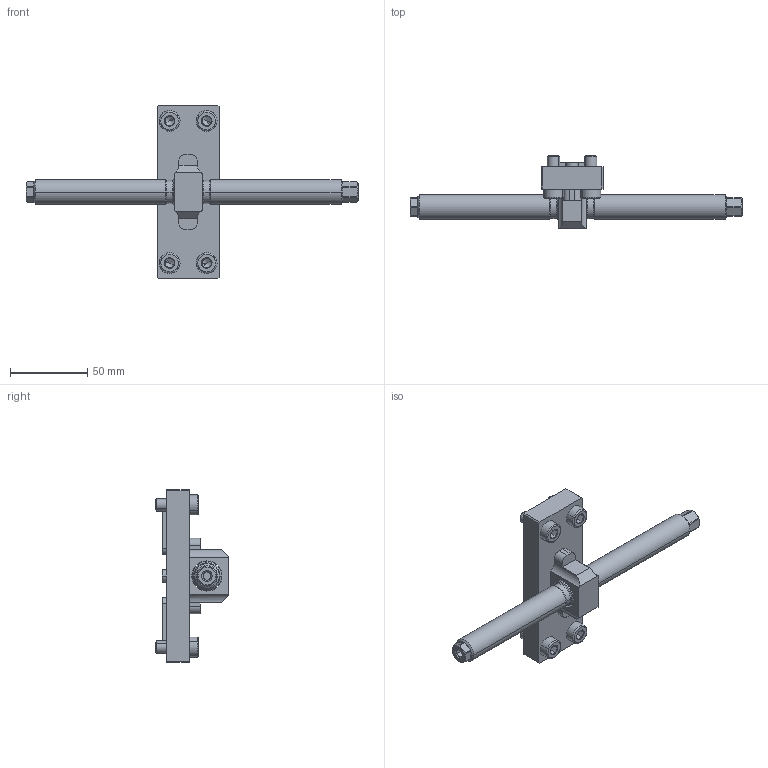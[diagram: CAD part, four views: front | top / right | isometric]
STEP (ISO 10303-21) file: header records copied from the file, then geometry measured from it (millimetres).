
FILE_DESCRIPTION (( 'STEP AP214' ), '1' );
FILE_NAME ('49120-TG.STEP', '2023-02-10T13:34:17', ( '' ), ( '' ), 'SwSTEP 2.0', 'SolidWorks 2021', '' );
FILE_SCHEMA (( 'AUTOMOTIVE_DESIGN' ));
Length unit declared in the file: millimetre
Products named in the file (1): 49120-TG
Bounding box: 215 x 47.7 x 112 mm (x, y, z)
Volume: 123364.3 mm3; surface area: 37598.6 mm2
Topology: 9 solids, 9 shells, 342 faces, 794 edges, 480 vertices
Faces by surface type: plane 150, cylinder 84, cone 76, bspline 24, torus 8
Entity records: 14602 total; most frequent: CARTESIAN_POINT 3001, DIRECTION 1656, ORIENTED_EDGE 1572, EDGE_CURVE 786, AXIS2_PLACEMENT_3D 627, VERTEX_POINT 480, LINE 402, VECTOR 402
